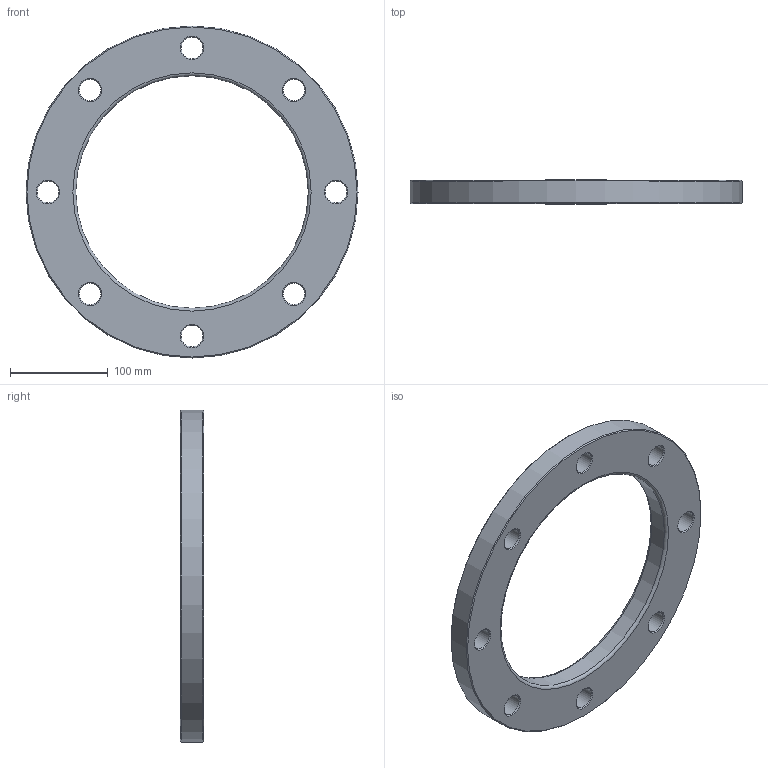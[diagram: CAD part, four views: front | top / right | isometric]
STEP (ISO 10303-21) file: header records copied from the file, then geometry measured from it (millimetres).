
FILE_DESCRIPTION(/* description */ ('Unknown'),/* implementation_level */ '2;1');
FILE_NAME(/* name */ 'FR225B',/* time_stamp */ '2022-07-06T10:06:20+02:00',/* author */ ('Unknown'),/* organization */ ('Unknown'),/* preprocessor_version */ 'ST-DEVELOPER v18.102',/* originating_system */ 'Solid Edge',/* authorisation */ 'Unknown');
FILE_SCHEMA (('AUTOMOTIVE_DESIGN {1 0 10303 214 3 1 1}'));
Length unit declared in the file: millimetre
Products named in the file (1): FR225B
Bounding box: 340 x 24 x 340 mm (x, y, z)
Volume: 1033768.7 mm3; surface area: 139577.5 mm2
Topology: 1 solids, 1 shells, 32 faces, 94 edges, 64 vertices
Faces by surface type: cone 18, cylinder 10, plane 2, torus 2
Full cylindrical faces by diameter (mm): 22 x8, 238 x1, 340 x1
Entity records: 790 total; most frequent: DIRECTION 146, CARTESIAN_POINT 113, ORIENTED_EDGE 80, EDGE_LOOP 80, FACE_BOUND 80, AXIS2_PLACEMENT_3D 73, EDGE_CURVE 40, VERTEX_POINT 40
